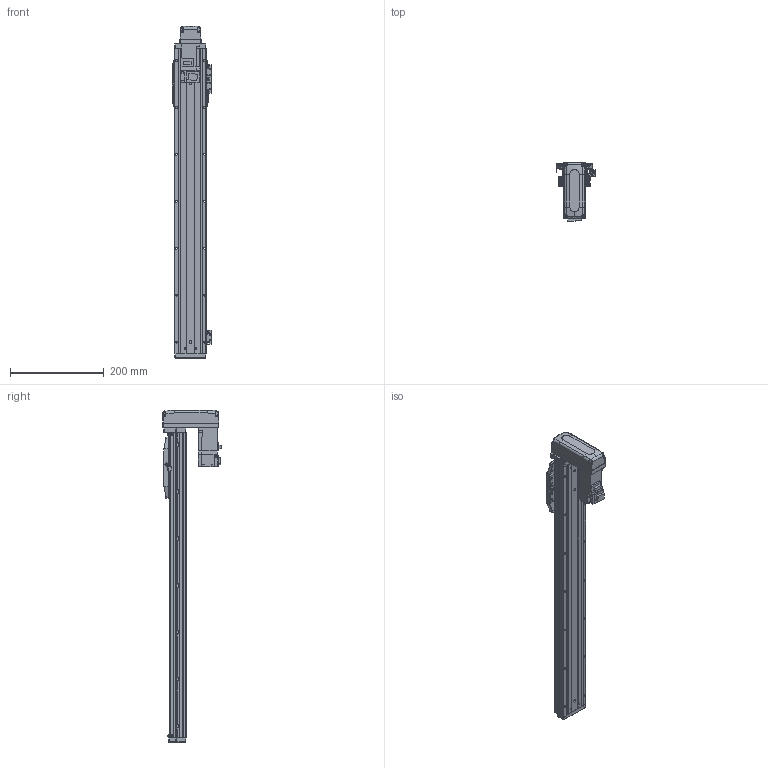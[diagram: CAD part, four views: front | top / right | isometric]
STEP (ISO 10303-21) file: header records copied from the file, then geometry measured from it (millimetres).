
FILE_DESCRIPTION (( 'STEP AP203' ), '1' );
FILE_NAME ('CTHA60-500-BM-M10-C4L.step', '2022-03-19T06:18:03', ( '微软用户' ), ( '微软中国' ), 'SwSTEP 2.0', 'SolidWorks 2020', '' );
FILE_SCHEMA (( 'CONFIG_CONTROL_DESIGN' ));
Length unit declared in the file: millimetre
Products named in the file (18): CTHA60-021; GBT 70.1-M3℅6; CTHA60-033; CTHA60-001_650; GBT 70.1-M4×16; GBT 70.3-M3℅6; CTHA60-500-BM-M10-C4L; CTHA60-004; GBT77-2000 M3×3; CTHA60-016; CTHA60-005; HG-KR13（三菱）; GB¨uT 70.2-M3¡Á6_M3¡Á6; CTHA60-002; EE_SX911P_R; CTHA60-031; CTHA60-017; CTHA60-006-1
Assembly tree (54 placements, depth 2):
  CTHA60-500-BM-M10-C4L
    CTHA60-001_650
    CTHA60-004
    CTHA60-005
    GB¨uT 70.2-M3¡Á6_M3¡Á6  x10
    EE_SX911P_R  x3
    CTHA60-017  x3
    CTHA60-021  x2
    GBT 70.1-M4×16  x10
    GBT77-2000 M3×3  x6
    GBT 70.1-M3℅6  x6
    GBT 70.3-M3℅6  x4
    CTHA60-016  x2
    HG-KR13（三菱）
    CTHA60-002
    CTHA60-031
    CTHA60-006-1
    CTHA60-033
Bounding box: 83.12 x 125.3 x 707 mm (x, y, z)
Volume: 1259625.5 mm3; surface area: 382484 mm2
Topology: 56 solids, 56 shells, 2514 faces, 6037 edges, 3721 vertices
Faces by surface type: plane 1449, cylinder 577, cone 340, torus 92, bspline 32, sphere 24
Entity records: 45011 total; most frequent: CARTESIAN_POINT 8698, DIRECTION 6946, ORIENTED_EDGE 6882, EDGE_CURVE 3441, LINE 2442, VECTOR 2442, AXIS2_PLACEMENT_3D 2252, VERTEX_POINT 2180
